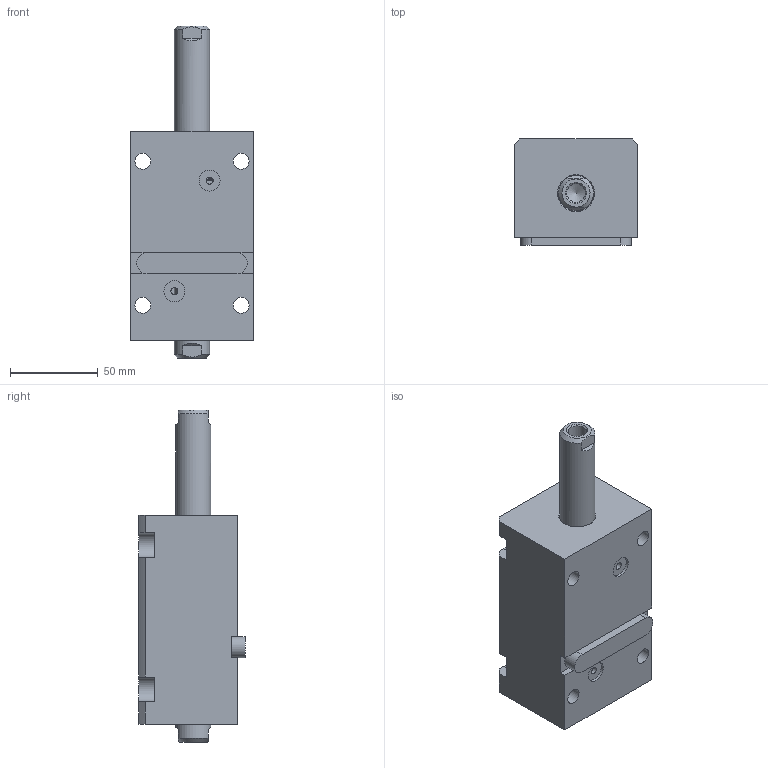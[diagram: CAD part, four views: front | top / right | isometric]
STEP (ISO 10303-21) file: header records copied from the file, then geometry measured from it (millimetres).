
FILE_DESCRIPTION(/* description */ (''),/* implementation_level */ '2;1');
FILE_NAME(/* name */ 'CHTB-LWM32-50N.stp',/* time_stamp */ '2022-04-29T16:32:46+08:00',/* author */ (''),/* organization */ (''),/* preprocessor_version */ 'ST-DEVELOPER v16.7',/* originating_system */ 'SIEMENS PLM Software NX 12.0',/* authorisation */ '');
FILE_SCHEMA (('AUTOMOTIVE_DESIGN { 1 0 10303 214 3 1 1 1 }'));
Length unit declared in the file: millimetre
Products named in the file (1): CHTB-LWM32-50N
Bounding box: 70 x 60.5 x 189 mm (x, y, z)
Volume: 439913.1 mm3; surface area: 79507.3 mm2
Topology: 3 solids, 3 shells, 487 faces, 1343 edges, 900 vertices
Faces by surface type: plane 316, extrusion 86, cylinder 53, torus 12, cone 10, bspline 10
Full cylindrical faces by diameter (mm): 3 x2, 4 x2, 9 x4, 10.5 x2, 12 x2, 20 x4, 24.5 x1, 26 x2, 28 x1, 32 x5, 38 x9, 40 x1
Entity records: 22717 total; most frequent: CARTESIAN_POINT 8668, ORIENTED_EDGE 2540, DIRECTION 1954, EDGE_CURVE 1270, VECTOR 986, LINE 900, VERTEX_POINT 888, EDGE_LOOP 580
